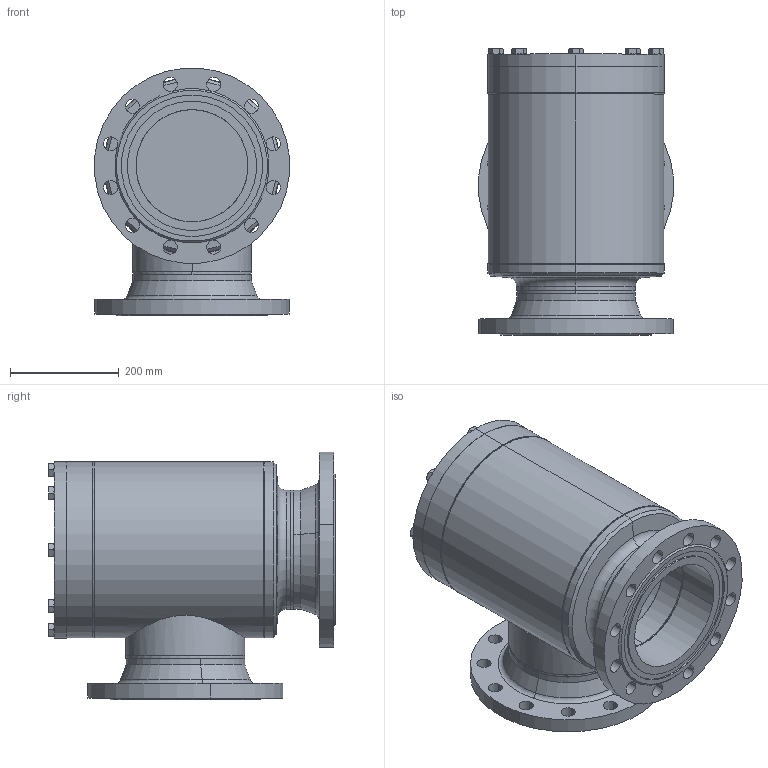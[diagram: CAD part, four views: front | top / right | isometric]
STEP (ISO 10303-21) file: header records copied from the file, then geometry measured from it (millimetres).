
FILE_DESCRIPTION (( 'STEP AP214' ), '1' );
FILE_NAME ('SS52420C23-DN200_DIN-FL-N_PS25.STEP', '2006-05-02T05:53:11', ( 'Herr Grams' ), ( 'AWP GmbH' ), 'SwSTEP 2.0', 'SolidWorks 2002296', '' );
FILE_SCHEMA (( 'AUTOMOTIVE_DESIGN' ));
Length unit declared in the file: millimetre
Products named in the file (14): SS52420C23-DN200_DIN-FL-N_PS25; SS52300B23_Deck+Schr-DN200_Standard; Deckel52300B23-DN200_Standard; Sechskantschraube-DIN933_M16x 45; Gehäuse-kpl16420-DN200_DIN_PS25_Standard; Boden16300-DN200_Standard; Gehäuse16300-DN200_Standard; Kopfstück16300-DN200_Standard; bead-DN200-4_Standard; bead-DN200-2_Standard; bead-DN200-1_Standard; bead-DN200-3_Standard; Flansch-DIN2634-Nut_PS25_DIN-Flansch-DN200_PS25-Nut; Rohrstutzen-A16300-DN200_R1_Standard
Assembly tree (21 placements, depth 3):
  SS52420C23-DN200_DIN-FL-N_PS25
    SS52300B23_Deck+Schr-DN200_Standard
      Deckel52300B23-DN200_Standard
      Sechskantschraube-DIN933_M16x 45  x8
    Gehäuse-kpl16420-DN200_DIN_PS25_Standard
      bead-DN200-3_Standard
      Kopfstück16300-DN200_Standard
      Flansch-DIN2634-Nut_PS25_DIN-Flansch-DN200_PS25-Nut  x2
      bead-DN200-1_Standard
      bead-DN200-2_Standard
      bead-DN200-4_Standard
      Rohrstutzen-A16300-DN200_R1_Standard
      Gehäuse16300-DN200_Standard
      Boden16300-DN200_Standard
Bounding box: 358.63 x 527.5 x 455.31 mm (x, y, z)
Volume: 13416418.4 mm3; surface area: 1946208.8 mm2
Topology: 19 solids, 19 shells, 391 faces, 916 edges, 554 vertices
Faces by surface type: cone 138, cylinder 129, plane 102, bspline 16, torus 6
Entity records: 9468 total; most frequent: CARTESIAN_POINT 4654, DIRECTION 886, ORIENTED_EDGE 824, EDGE_CURVE 412, AXIS2_PLACEMENT_3D 388, VERTEX_POINT 258, EDGE_LOOP 220, CIRCLE 210
